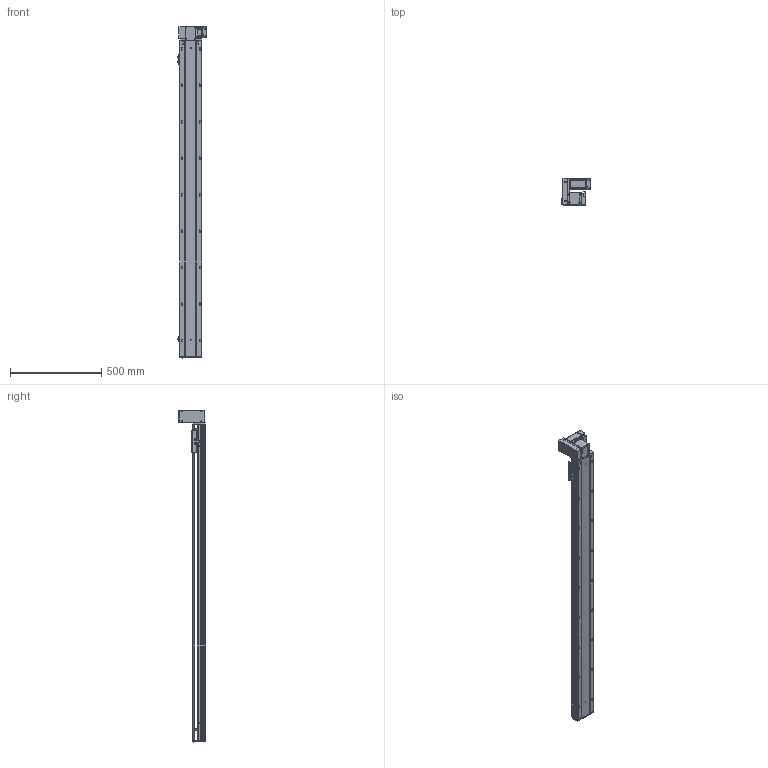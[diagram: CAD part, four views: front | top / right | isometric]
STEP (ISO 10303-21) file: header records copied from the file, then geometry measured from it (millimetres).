
FILE_DESCRIPTION (( 'STEP AP203' ), '1' );
FILE_NAME ('RY120-T-300-UL.SLDASM_1500.step', '2021-03-01T05:37:02', ( '盈信电脑' ), ( '东莞市道滘镇水果街19号' ), 'SwSTEP 2.0', 'SolidWorks 2012', '' );
FILE_SCHEMA (( 'CONFIG_CONTROL_DESIGN' ));
Products named in the file (18): 滅袉蝶18-10; RY120-T蹟翐M4; RY120-T萇儂欶; RY120-T主同步轮轴承压盖; RY120-T萇儂假蚾啣; 15; 侂狟400W侜督萇儂; RY120-T肮祭湍揤踡輸2; RY120-T翋肮祭盓傅釱; RY120-T肮祭湍揤踡輸1; RY120外置感应片(140共用）; RY120肮祭湍臏賑輸; RY120綴裔啣; 覜茼ん672; RY120-T-300-UL倰第奻裔啣_1500; RY120-T-300-UL倰第菁釱_1500; RY120-T翋肮祭謫裔啣; RY120-T-300-UL.SLDASM_1500
Assembly tree (23 placements, depth 3):
  RY120-T-300-UL.SLDASM_1500
    RY120-T-300-UL倰第菁釱_1500
    RY120-T-300-UL倰第奻裔啣_1500
    RY120肮祭湍臏賑輸
    RY120綴裔啣
    覜茼ん672  x3
    RY120外置感应片(140共用）
    RY120-T肮祭湍揤踡輸1
    RY120-T肮祭湍揤踡輸2
    RY120-T翋肮祭盓傅釱
    RY120-T萇儂假蚾啣
    侂狟400W侜督萇儂
      15
    RY120-T主同步轮轴承压盖
    滅袉蝶18-10  x2
    RY120-T萇儂欶
    RY120-T蹟翐M4  x4
    RY120-T翋肮祭謫裔啣
Bounding box: 164.2 x 146 x 1821 mm (x, y, z)
Volume: 4711923.7 mm3; surface area: 1784425.5 mm2
Topology: 23 solids, 23 shells, 2968 faces, 8104 edges, 5176 vertices
Faces by surface type: plane 1432, cylinder 1158, cone 289, bspline 89
Entity records: 94998 total; most frequent: CARTESIAN_POINT 24448, ORIENTED_EDGE 14560, DIRECTION 13770, EDGE_CURVE 7280, VERTEX_POINT 4763, AXIS2_PLACEMENT_3D 4649, LINE 4472, VECTOR 4472
